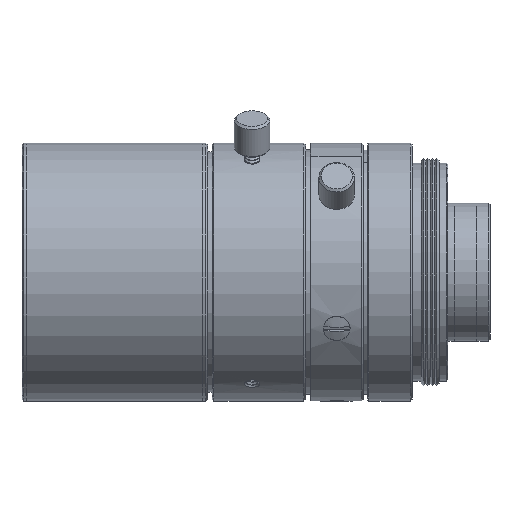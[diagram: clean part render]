
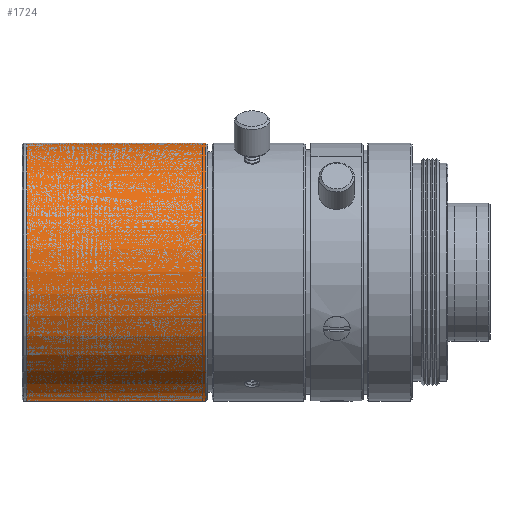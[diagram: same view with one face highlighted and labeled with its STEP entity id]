
A CAD part, top view. The second image highlights one B-rep face of the part: STEP entity #1724.
In plain terms, the highlighted cylindrical face has radius 14.5 mm (diameter 29 mm), a partial arc.
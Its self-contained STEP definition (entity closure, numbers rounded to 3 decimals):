
#1628 = CONICAL_SURFACE('',#1629,14.4,0.785);
#1629 = AXIS2_PLACEMENT_3D('',#1630,#1631,#1632);
#1630 = CARTESIAN_POINT('',(-60.9,0.,0.));
#1631 = DIRECTION('',(1.,0.,0.));
#1632 = DIRECTION('',(-0.,1.,0.));
#1648 = VERTEX_POINT('',#1649);
#1649 = CARTESIAN_POINT('',(-60.8,-14.5,0.));
#1675 = EDGE_CURVE('',#1648,#1676,#1678,.T.);
#1676 = VERTEX_POINT('',#1677);
#1677 = CARTESIAN_POINT('',(-60.8,14.5,0.));
#1678 = SURFACE_CURVE('',#1679,(#1684,#1691),.PCURVE_S1.);
#1679 = CIRCLE('',#1680,14.5);
#1680 = AXIS2_PLACEMENT_3D('',#1681,#1682,#1683);
#1681 = CARTESIAN_POINT('',(-60.8,0.,0.));
#1682 = DIRECTION('',(-1.,0.,0.));
#1683 = DIRECTION('',(0.,1.,0.));
#1684 = PCURVE('',#1628,#1685);
#1685 = DEFINITIONAL_REPRESENTATION('',(#1686),#1690);
#1686 = LINE('',#1687,#1688);
#1687 = CARTESIAN_POINT('',(6.283,0.1));
#1688 = VECTOR('',#1689,1.);
#1689 = DIRECTION('',(-1.,0.));
#1690 = ( GEOMETRIC_REPRESENTATION_CONTEXT(2) 
PARAMETRIC_REPRESENTATION_CONTEXT() REPRESENTATION_CONTEXT('',''
  ) );
#1691 = PCURVE('',#1692,#1697);
#1692 = CYLINDRICAL_SURFACE('',#1693,14.5);
#1693 = AXIS2_PLACEMENT_3D('',#1694,#1695,#1696);
#1694 = CARTESIAN_POINT('',(-50.75,0.,0.));
#1695 = DIRECTION('',(1.,0.,0.));
#1696 = DIRECTION('',(-0.,1.,0.));
#1697 = DEFINITIONAL_REPRESENTATION('',(#1698),#1702);
#1698 = LINE('',#1699,#1700);
#1699 = CARTESIAN_POINT('',(6.283,-10.05));
#1700 = VECTOR('',#1701,1.);
#1701 = DIRECTION('',(-1.,0.));
#1702 = ( GEOMETRIC_REPRESENTATION_CONTEXT(2) 
PARAMETRIC_REPRESENTATION_CONTEXT() REPRESENTATION_CONTEXT('',''
  ) );
#1724 = ADVANCED_FACE('',(#1725),#1692,.T.);
#1725 = FACE_BOUND('',#1726,.T.);
#1726 = EDGE_LOOP('',(#1727,#1728,#1756,#1785));
#1727 = ORIENTED_EDGE('',*,*,#1675,.F.);
#1728 = ORIENTED_EDGE('',*,*,#1729,.T.);
#1729 = EDGE_CURVE('',#1648,#1730,#1732,.T.);
#1730 = VERTEX_POINT('',#1731);
#1731 = CARTESIAN_POINT('',(-40.7,-14.5,0.));
#1732 = SURFACE_CURVE('',#1733,(#1737,#1744),.PCURVE_S1.);
#1733 = LINE('',#1734,#1735);
#1734 = CARTESIAN_POINT('',(-50.75,-14.5,0.));
#1735 = VECTOR('',#1736,1.);
#1736 = DIRECTION('',(1.,0.,0.));
#1737 = PCURVE('',#1692,#1738);
#1738 = DEFINITIONAL_REPRESENTATION('',(#1739),#1743);
#1739 = LINE('',#1740,#1741);
#1740 = CARTESIAN_POINT('',(3.142,0.));
#1741 = VECTOR('',#1742,1.);
#1742 = DIRECTION('',(0.,1.));
#1743 = ( GEOMETRIC_REPRESENTATION_CONTEXT(2) 
PARAMETRIC_REPRESENTATION_CONTEXT() REPRESENTATION_CONTEXT('',''
  ) );
#1744 = PCURVE('',#1745,#1750);
#1745 = CYLINDRICAL_SURFACE('',#1746,14.5);
#1746 = AXIS2_PLACEMENT_3D('',#1747,#1748,#1749);
#1747 = CARTESIAN_POINT('',(-50.75,0.,0.));
#1748 = DIRECTION('',(1.,0.,0.));
#1749 = DIRECTION('',(-0.,1.,0.));
#1750 = DEFINITIONAL_REPRESENTATION('',(#1751),#1755);
#1751 = LINE('',#1752,#1753);
#1752 = CARTESIAN_POINT('',(3.142,0.));
#1753 = VECTOR('',#1754,1.);
#1754 = DIRECTION('',(0.,1.));
#1755 = ( GEOMETRIC_REPRESENTATION_CONTEXT(2) 
PARAMETRIC_REPRESENTATION_CONTEXT() REPRESENTATION_CONTEXT('',''
  ) );
#1756 = ORIENTED_EDGE('',*,*,#1757,.T.);
#1757 = EDGE_CURVE('',#1730,#1758,#1760,.T.);
#1758 = VERTEX_POINT('',#1759);
#1759 = CARTESIAN_POINT('',(-40.7,14.5,0.));
#1760 = SURFACE_CURVE('',#1761,(#1766,#1773),.PCURVE_S1.);
#1761 = CIRCLE('',#1762,14.5);
#1762 = AXIS2_PLACEMENT_3D('',#1763,#1764,#1765);
#1763 = CARTESIAN_POINT('',(-40.7,0.,0.));
#1764 = DIRECTION('',(-1.,0.,0.));
#1765 = DIRECTION('',(0.,1.,0.));
#1766 = PCURVE('',#1692,#1767);
#1767 = DEFINITIONAL_REPRESENTATION('',(#1768),#1772);
#1768 = LINE('',#1769,#1770);
#1769 = CARTESIAN_POINT('',(6.283,10.05));
#1770 = VECTOR('',#1771,1.);
#1771 = DIRECTION('',(-1.,0.));
#1772 = ( GEOMETRIC_REPRESENTATION_CONTEXT(2) 
PARAMETRIC_REPRESENTATION_CONTEXT() REPRESENTATION_CONTEXT('',''
  ) );
#1773 = PCURVE('',#1774,#1779);
#1774 = CONICAL_SURFACE('',#1775,14.4,0.785);
#1775 = AXIS2_PLACEMENT_3D('',#1776,#1777,#1778);
#1776 = CARTESIAN_POINT('',(-40.6,0.,0.));
#1777 = DIRECTION('',(-1.,0.,0.));
#1778 = DIRECTION('',(0.,1.,0.));
#1779 = DEFINITIONAL_REPRESENTATION('',(#1780),#1784);
#1780 = LINE('',#1781,#1782);
#1781 = CARTESIAN_POINT('',(0.,0.1));
#1782 = VECTOR('',#1783,1.);
#1783 = DIRECTION('',(1.,0.));
#1784 = ( GEOMETRIC_REPRESENTATION_CONTEXT(2) 
PARAMETRIC_REPRESENTATION_CONTEXT() REPRESENTATION_CONTEXT('',''
  ) );
#1785 = ORIENTED_EDGE('',*,*,#1786,.F.);
#1786 = EDGE_CURVE('',#1676,#1758,#1787,.T.);
#1787 = SURFACE_CURVE('',#1788,(#1792,#1799),.PCURVE_S1.);
#1788 = LINE('',#1789,#1790);
#1789 = CARTESIAN_POINT('',(-50.75,14.5,0.));
#1790 = VECTOR('',#1791,1.);
#1791 = DIRECTION('',(1.,0.,0.));
#1792 = PCURVE('',#1692,#1793);
#1793 = DEFINITIONAL_REPRESENTATION('',(#1794),#1798);
#1794 = LINE('',#1795,#1796);
#1795 = CARTESIAN_POINT('',(0.,0.));
#1796 = VECTOR('',#1797,1.);
#1797 = DIRECTION('',(0.,1.));
#1798 = ( GEOMETRIC_REPRESENTATION_CONTEXT(2) 
PARAMETRIC_REPRESENTATION_CONTEXT() REPRESENTATION_CONTEXT('',''
  ) );
#1799 = PCURVE('',#1745,#1800);
#1800 = DEFINITIONAL_REPRESENTATION('',(#1801),#1805);
#1801 = LINE('',#1802,#1803);
#1802 = CARTESIAN_POINT('',(6.283,0.));
#1803 = VECTOR('',#1804,1.);
#1804 = DIRECTION('',(0.,1.));
#1805 = ( GEOMETRIC_REPRESENTATION_CONTEXT(2) 
PARAMETRIC_REPRESENTATION_CONTEXT() REPRESENTATION_CONTEXT('',''
  ) );
